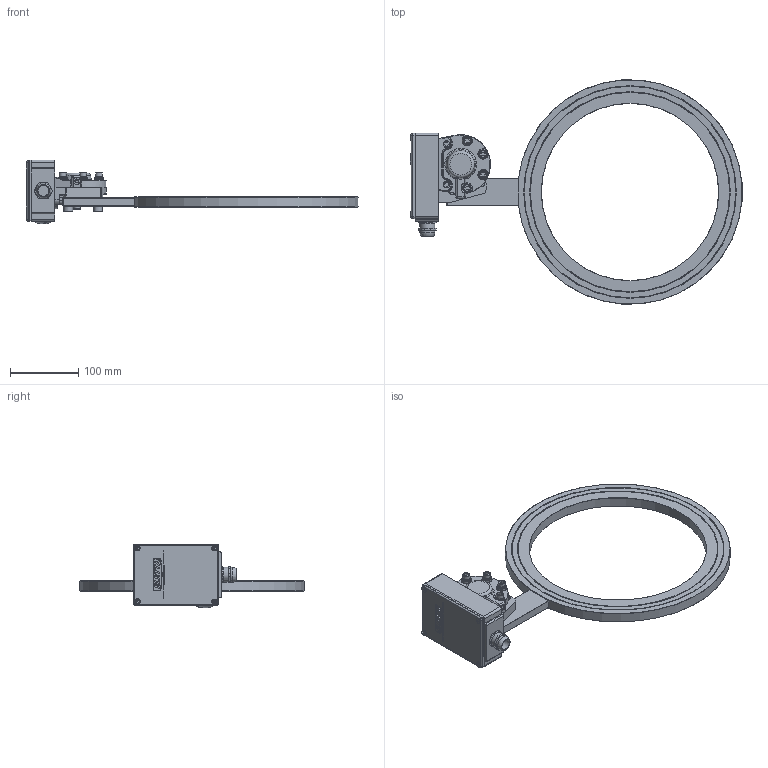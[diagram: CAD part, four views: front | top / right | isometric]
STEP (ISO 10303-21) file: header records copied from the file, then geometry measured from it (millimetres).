
FILE_DESCRIPTION(/* description */ ('Alibre Inc.'),/* implementation_level */ '2;1');
FILE_NAME(/* name */ 'export0',/* time_stamp */ '2012-10-19T13:18:43+02:00',/* author */ (''),/* organization */ (''),/* preprocessor_version */ 'ST-DEVELOPER v14',/* originating_system */ 'Alibre',/* authorisation */ '');
FILE_SCHEMA (('CONFIG_CONTROL_DESIGN'));
Length unit declared in the file: centimetre
Products named in the file (12): ID_1; ID_2; ID_3; ID_4; ID_5; ID_6; ID_7; ID_8
Bounding box: 487.25 x 329.24 x 93.66 mm (x, y, z)
Volume: 800841.6 mm3; surface area: 250886.4 mm2
Topology: 21 solids, 21 shells, 1085 faces, 2568 edges, 1593 vertices
Faces by surface type: plane 538, cylinder 231, bspline 162, cone 76, torus 70, sphere 8
Full cylindrical faces by diameter (mm): 3.9 x2, 5 x22, 5.5 x1, 5.541 x2, 6 x14, 6.038 x2, 6.5 x6, 8 x9, 8.5 x2, 9.6 x6, 10 x11, 10.5 x1, 12 x3, 13 x2, 14 x3, 16 x1, 17.966 x1, 19.5 x1, 22 x2, 22.5 x4, 29 x1, 31 x1, 260 x1, 293 x2, 294 x2, 311 x2, 312 x2
Entity records: 34338 total; most frequent: CARTESIAN_POINT 14030, ORIENTED_EDGE 3988, DIRECTION 3168, EDGE_CURVE 1994, VERTEX_POINT 1333, AXIS2_PLACEMENT_3D 1279, EDGE_LOOP 1159, FACE_BOUND 1159
